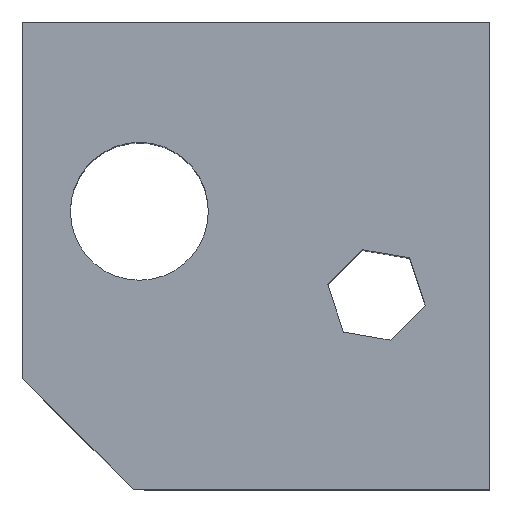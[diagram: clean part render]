
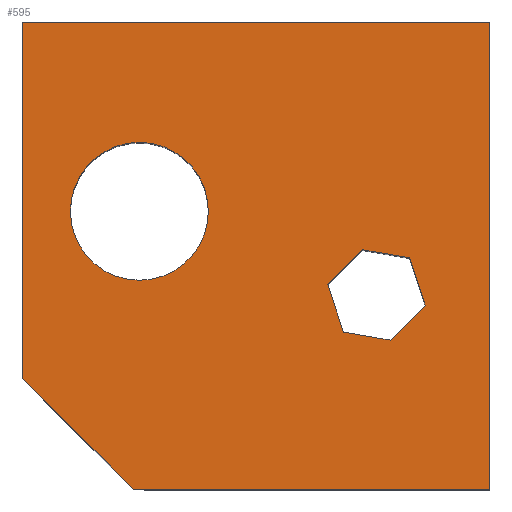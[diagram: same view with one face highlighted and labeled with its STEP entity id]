
A CAD part, top view. The second image highlights one B-rep face of the part: STEP entity #595.
In plain terms, the highlighted planar face has unit normal (0, 0, 1).
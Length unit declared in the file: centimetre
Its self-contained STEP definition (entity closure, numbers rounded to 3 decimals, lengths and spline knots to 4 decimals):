
#2 = VERTEX_POINT ( 'NONE', #41 ) ;
#3 = DIRECTION ( 'NONE',  ( 1., 0., 0. ) ) ;
#6 = VERTEX_POINT ( 'NONE', #673 ) ;
#11 = EDGE_CURVE ( 'NONE', #6, #533, #605, .T. ) ;
#12 = VECTOR ( 'NONE', #454, 100. ) ;
#20 = CARTESIAN_POINT ( 'NONE',  ( 250.3208, 594.8509, 1000. ) ) ;
#26 = ORIENTED_EDGE ( 'NONE', *, *, #318, .T. ) ;
#29 = CARTESIAN_POINT ( 'NONE',  ( 397.9622, 594.8509, 1000. ) ) ;
#31 = AXIS2_PLACEMENT_3D ( 'NONE', #20, #88, #597 ) ;
#41 = CARTESIAN_POINT ( 'NONE',  ( 786.9943, 319.1284, 1000. ) ) ;
#46 = DIRECTION ( 'NONE',  ( 0., 0., 1. ) ) ;
#56 = CARTESIAN_POINT ( 'NONE',  ( 0., 1000., 1000. ) ) ;
#60 = ORIENTED_EDGE ( 'NONE', *, *, #11, .T. ) ;
#67 = VECTOR ( 'NONE', #122, 100. ) ;
#68 = DIRECTION ( 'NONE',  ( 0.314, -0.949, 0. ) ) ;
#80 = EDGE_CURVE ( 'NONE', #618, #6, #410, .T. ) ;
#88 = DIRECTION ( 'NONE',  ( 0., 0., 1. ) ) ;
#93 = LINE ( 'NONE', #140, #236 ) ;
#98 = CARTESIAN_POINT ( 'NONE',  ( 250.3208, 594.8509, 1000. ) ) ;
#101 = ORIENTED_EDGE ( 'NONE', *, *, #80, .T. ) ;
#106 = FACE_BOUND ( 'NONE', #433, .T. ) ;
#114 = CARTESIAN_POINT ( 'NONE',  ( 237.4101, 0., 1000. ) ) ;
#120 = ORIENTED_EDGE ( 'NONE', *, *, #198, .T. ) ;
#122 = DIRECTION ( 'NONE',  ( 0., 1., 0. ) ) ;
#125 = ORIENTED_EDGE ( 'NONE', *, *, #337, .T. ) ;
#127 = VECTOR ( 'NONE', #207, 100. ) ;
#131 = CARTESIAN_POINT ( 'NONE',  ( 118.7051, 118.7051, 1000. ) ) ;
#135 = CARTESIAN_POINT ( 'NONE',  ( 862.0956, 394.2298, 1000. ) ) ;
#140 = CARTESIAN_POINT ( 'NONE',  ( 862.0956, 394.2298, 1000. ) ) ;
#143 = LINE ( 'NONE', #359, #495 ) ;
#145 = AXIS2_PLACEMENT_3D ( 'NONE', #416, #431, #3 ) ;
#163 = DIRECTION ( 'NONE',  ( 0.707, 0.707, 0. ) ) ;
#165 = FACE_OUTER_BOUND ( 'NONE', #418, .T. ) ;
#166 = LINE ( 'NONE', #344, #539 ) ;
#168 = CARTESIAN_POINT ( 'NONE',  ( 1000., 0., 1000. ) ) ;
#169 = VECTOR ( 'NONE', #163, 100. ) ;
#173 = VERTEX_POINT ( 'NONE', #267 ) ;
#175 = ORIENTED_EDGE ( 'NONE', *, *, #476, .T. ) ;
#185 = LINE ( 'NONE', #444, #383 ) ;
#189 = ORIENTED_EDGE ( 'NONE', *, *, #351, .T. ) ;
#190 = VECTOR ( 'NONE', #193, 100. ) ;
#193 = DIRECTION ( 'NONE',  ( -1., 0., 0. ) ) ;
#198 = EDGE_CURVE ( 'NONE', #526, #205, #143, .T. ) ;
#205 = VERTEX_POINT ( 'NONE', #257 ) ;
#207 = DIRECTION ( 'NONE',  ( 0., -1., 0. ) ) ;
#209 = EDGE_CURVE ( 'NONE', #352, #282, #592, .T. ) ;
#219 = FACE_BOUND ( 'NONE', #387, .T. ) ;
#236 = VECTOR ( 'NONE', #457, 100. ) ;
#257 = CARTESIAN_POINT ( 'NONE',  ( 653.7183, 437.2776, 1000. ) ) ;
#267 = CARTESIAN_POINT ( 'NONE',  ( 728.8196, 512.379, 1000. ) ) ;
#268 = ORIENTED_EDGE ( 'NONE', *, *, #295, .T. ) ;
#282 = VERTEX_POINT ( 'NONE', #29 ) ;
#290 = DIRECTION ( 'NONE',  ( 1., 0., 0. ) ) ;
#295 = EDGE_CURVE ( 'NONE', #580, #327, #185, .T. ) ;
#300 = LINE ( 'NONE', #362, #373 ) ;
#302 = VECTOR ( 'NONE', #326, 100. ) ;
#317 = CARTESIAN_POINT ( 'NONE',  ( 1000., 1000., 1000. ) ) ;
#318 = EDGE_CURVE ( 'NONE', #2, #526, #490, .T. ) ;
#326 = DIRECTION ( 'NONE',  ( -0.986, 0.169, 0. ) ) ;
#327 = VERTEX_POINT ( 'NONE', #135 ) ;
#329 = CIRCLE ( 'NONE', #31, 147.6414 ) ;
#337 = EDGE_CURVE ( 'NONE', #533, #662, #166, .T. ) ;
#344 = CARTESIAN_POINT ( 'NONE',  ( 0., 0., 1000. ) ) ;
#345 = ORIENTED_EDGE ( 'NONE', *, *, #489, .T. ) ;
#346 = EDGE_CURVE ( 'NONE', #282, #352, #329, .T. ) ;
#351 = EDGE_CURVE ( 'NONE', #205, #173, #381, .T. ) ;
#352 = VERTEX_POINT ( 'NONE', #377 ) ;
#359 = CARTESIAN_POINT ( 'NONE',  ( 687.1723, 336.2856, 1000. ) ) ;
#362 = CARTESIAN_POINT ( 'NONE',  ( 728.8196, 512.379, 1000. ) ) ;
#373 = VECTOR ( 'NONE', #664, 100. ) ;
#377 = CARTESIAN_POINT ( 'NONE',  ( 102.6794, 594.8509, 1000. ) ) ;
#380 = PLANE ( 'NONE',  #145 ) ;
#381 = LINE ( 'NONE', #506, #169 ) ;
#383 = VECTOR ( 'NONE', #68, 100. ) ;
#387 = EDGE_LOOP ( 'NONE', ( #120, #189, #345, #268, #518, #26 ) ) ;
#389 = EDGE_CURVE ( 'NONE', #662, #598, #432, .T. ) ;
#410 = LINE ( 'NONE', #56, #127 ) ;
#412 = CARTESIAN_POINT ( 'NONE',  ( 0., 1000., 1000. ) ) ;
#416 = CARTESIAN_POINT ( 'NONE',  ( 0., 0., 1000. ) ) ;
#418 = EDGE_LOOP ( 'NONE', ( #101, #60, #125, #487, #175 ) ) ;
#428 = CARTESIAN_POINT ( 'NONE',  ( 0., 1000., 1000. ) ) ;
#431 = DIRECTION ( 'NONE',  ( 0., 0., 1. ) ) ;
#432 = LINE ( 'NONE', #646, #67 ) ;
#433 = EDGE_LOOP ( 'NONE', ( #545, #640 ) ) ;
#444 = CARTESIAN_POINT ( 'NONE',  ( 828.6416, 495.2218, 1000. ) ) ;
#454 = DIRECTION ( 'NONE',  ( 0.707, -0.707, 0. ) ) ;
#457 = DIRECTION ( 'NONE',  ( -0.707, -0.707, 0. ) ) ;
#468 = EDGE_CURVE ( 'NONE', #327, #2, #93, .T. ) ;
#476 = EDGE_CURVE ( 'NONE', #598, #618, #669, .T. ) ;
#487 = ORIENTED_EDGE ( 'NONE', *, *, #389, .T. ) ;
#489 = EDGE_CURVE ( 'NONE', #173, #580, #300, .T. ) ;
#490 = LINE ( 'NONE', #610, #302 ) ;
#495 = VECTOR ( 'NONE', #572, 100. ) ;
#506 = CARTESIAN_POINT ( 'NONE',  ( 653.7183, 437.2776, 1000. ) ) ;
#518 = ORIENTED_EDGE ( 'NONE', *, *, #468, .T. ) ;
#526 = VERTEX_POINT ( 'NONE', #569 ) ;
#527 = CARTESIAN_POINT ( 'NONE',  ( 828.6416, 495.2218, 1000. ) ) ;
#533 = VERTEX_POINT ( 'NONE', #114 ) ;
#539 = VECTOR ( 'NONE', #290, 100. ) ;
#545 = ORIENTED_EDGE ( 'NONE', *, *, #346, .F. ) ;
#569 = CARTESIAN_POINT ( 'NONE',  ( 687.1723, 336.2856, 1000. ) ) ;
#572 = DIRECTION ( 'NONE',  ( -0.314, 0.949, 0. ) ) ;
#580 = VERTEX_POINT ( 'NONE', #527 ) ;
#592 = CIRCLE ( 'NONE', #602, 147.6414 ) ;
#595 = ADVANCED_FACE ( 'NONE', ( #106, #219, #165 ), #380, .T. ) ;
#597 = DIRECTION ( 'NONE',  ( 1., 0., 0. ) ) ;
#598 = VERTEX_POINT ( 'NONE', #317 ) ;
#602 = AXIS2_PLACEMENT_3D ( 'NONE', #98, #46, #676 ) ;
#605 = LINE ( 'NONE', #131, #12 ) ;
#610 = CARTESIAN_POINT ( 'NONE',  ( 786.9943, 319.1284, 1000. ) ) ;
#618 = VERTEX_POINT ( 'NONE', #428 ) ;
#640 = ORIENTED_EDGE ( 'NONE', *, *, #209, .F. ) ;
#646 = CARTESIAN_POINT ( 'NONE',  ( 1000., 1000., 1000. ) ) ;
#662 = VERTEX_POINT ( 'NONE', #168 ) ;
#664 = DIRECTION ( 'NONE',  ( 0.986, -0.169, 0. ) ) ;
#669 = LINE ( 'NONE', #412, #190 ) ;
#673 = CARTESIAN_POINT ( 'NONE',  ( 0., 237.4101, 1000. ) ) ;
#676 = DIRECTION ( 'NONE',  ( 1., 0., 0. ) ) ;
